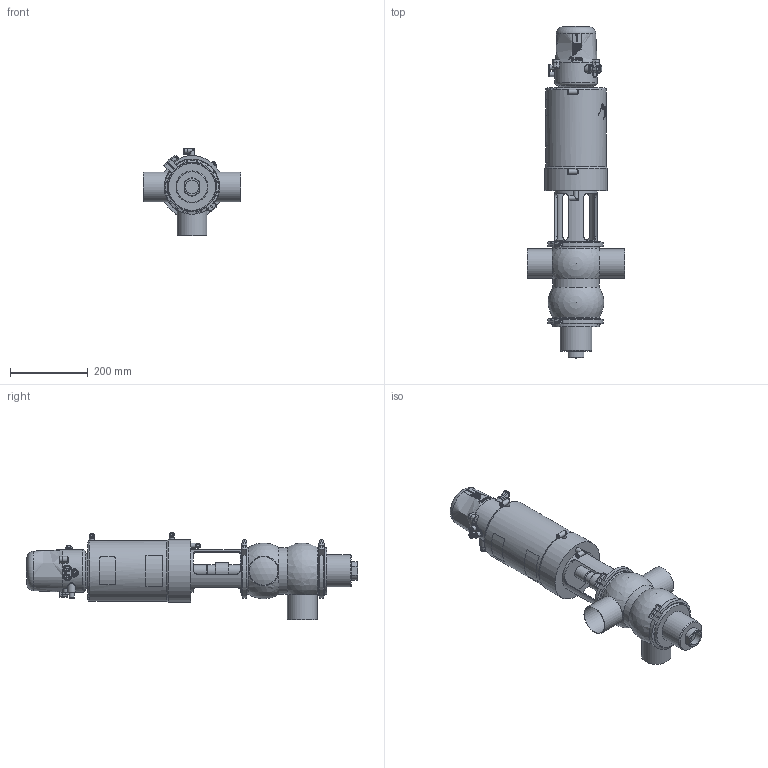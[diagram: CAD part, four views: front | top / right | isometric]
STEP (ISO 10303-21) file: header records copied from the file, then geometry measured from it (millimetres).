
FILE_DESCRIPTION (( 'STEP AP214' ), '1' );
FILE_NAME ('INNOVA P AB-90 W OD 3 & C-TOP S_10.250.16.0011.STEP', '2024-08-09T12:28:25', ( '' ), ( '' ), 'SwSTEP 2.0', 'SolidWorks 2023', '' );
FILE_SCHEMA (( 'AUTOMOTIVE_DESIGN' ));
Length unit declared in the file: millimetre
Products named in the file (7): 10.250.15.0001_OD 3"; 10.251.15.0003_OD 3"; 10.250.15.0002_Type P T2; 10.240.15.0001_DN 080; 10.426.15.0001_C-TOP S - 3 EV; 10.250.15.0003_DN 3"; INNOVA P AB-90 W OD 3 & C-TOP S_10.250.16.0011
Assembly tree (7 placements, depth 2):
  INNOVA P AB-90 W OD 3 & C-TOP S_10.250.16.0011
    10.250.15.0001_OD 3"
    10.250.15.0002_Type P T2
    10.426.15.0001_C-TOP S - 3 EV
    10.251.15.0003_OD 3"
    10.240.15.0001_DN 080  x2
    10.250.15.0003_DN 3"
Bounding box: 250 x 851.6 x 224 mm (x, y, z)
Volume: 10268888.1 mm3; surface area: 651787.9 mm2
Topology: 7 solids, 7 shells, 1206 faces, 2901 edges, 1930 vertices
Faces by surface type: plane 413, cylinder 385, cone 204, bspline 162, torus 33, sphere 9
Full cylindrical faces by diameter (mm): 0.371 x17, 0.512 x16, 0.658 x16, 0.795 x16, 0.94 x15, 1.098 x15, 1.241 x13, 1.382 x13, 1.523 x11, 1.669 x10, 2.201 x1, 4.2 x2, 5 x1, 5.5 x2, 6 x4, 6.15 x3, 8 x5, 10 x1, 10.5 x3, 11 x4, 12.5 x9, 13 x6, 13.5 x2, 17 x3, 20 x2, 22 x2, 30.5 x2, 32 x1, 35 x1, 41 x1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
Entity records: 60065 total; most frequent: CARTESIAN_POINT 28664, ORIENTED_EDGE 4604, DIRECTION 3761, EDGE_CURVE 2302, VERTEX_POINT 1644, EDGE_LOOP 1632, AXIS2_PLACEMENT_3D 1550, FACE_OUTER_BOUND 1377
